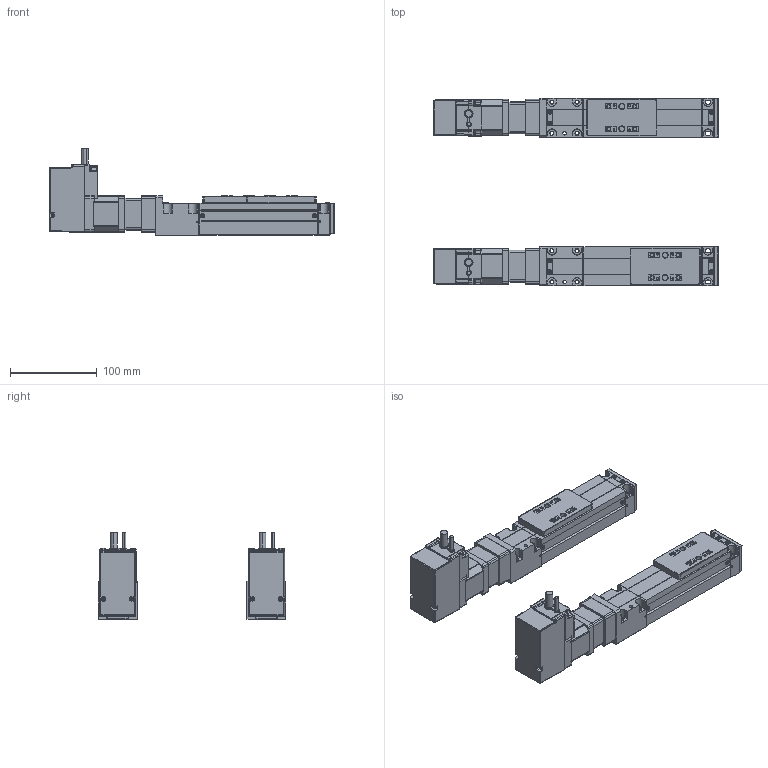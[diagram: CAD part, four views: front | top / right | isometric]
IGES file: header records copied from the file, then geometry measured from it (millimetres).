
Start section: IMSI TurboCAD v14.0
Global section: author: NULL; organization: NULL; date: 20110315.211253; units: millimetre
Bounding box: 328.67 x 216.56 x 100.06 mm (x, y, z)
Surface area: 285010.7 mm2 (no closed solid volume)
Topology: 0 solids, 0 shells, 4173 faces, 22406 edges, 22334 vertices
Faces by surface type: revolution 2020, extrusion 1957, bspline 196
